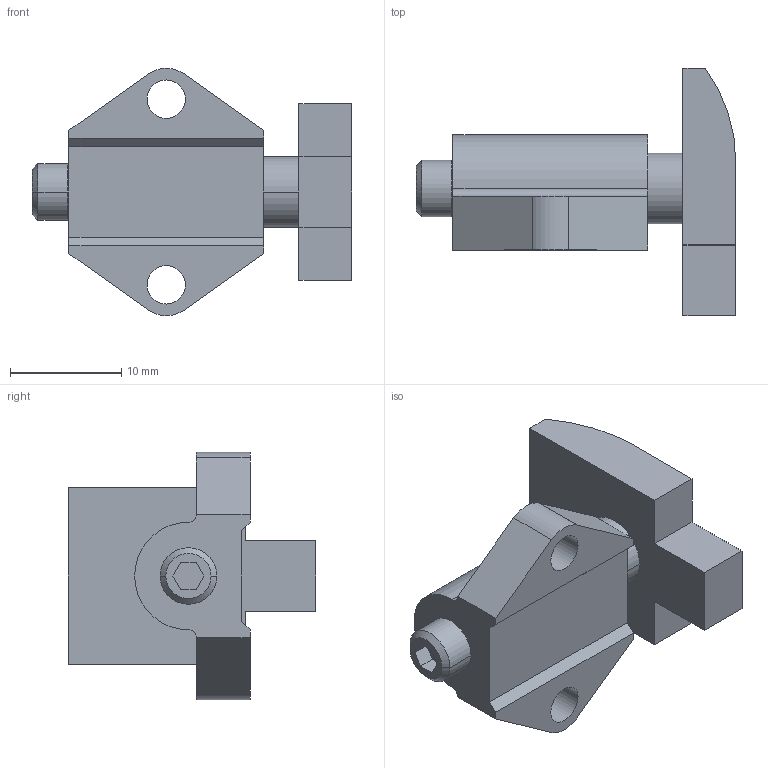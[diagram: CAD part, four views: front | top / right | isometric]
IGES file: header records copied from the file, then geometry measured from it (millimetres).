
Start section:  PTC IGES file: ss88a-3d.igs
Global section: file name: ss88a-3d.igs; native system: Pro/ENGINEER by Parametric Technology Corporation; preprocessor: 2002350; author: chant; organization: Unknown; date: 061026.110715; units: inch
Bounding box: 28.7 x 22.23 x 22.23 mm (x, y, z)
Surface area: 2686.6 mm2 (no closed solid volume)
Topology: 0 solids, 0 shells, 58 faces, 401 edges, 508 vertices
Faces by surface type: bspline 34, revolution 24
